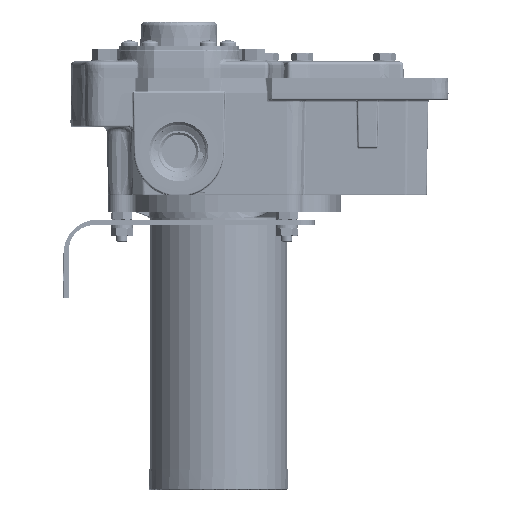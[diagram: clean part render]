
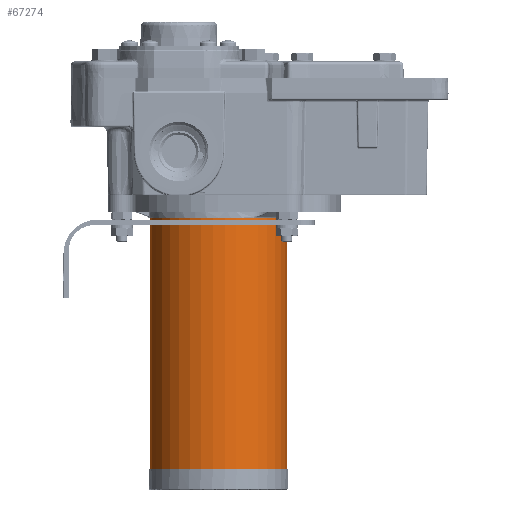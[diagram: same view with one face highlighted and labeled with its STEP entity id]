
A CAD part, front view. The second image highlights one B-rep face of the part: STEP entity #67274.
In plain terms, the highlighted cylindrical face has radius 38.976 mm (diameter 77.953 mm), a partial arc.
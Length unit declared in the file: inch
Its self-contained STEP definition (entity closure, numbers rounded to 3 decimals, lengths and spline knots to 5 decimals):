
#4627=CIRCLE('',#72520,1.5345);
#4628=CIRCLE('',#72521,1.5345);
#4629=CIRCLE('',#72526,1.5345);
#4630=CIRCLE('',#72527,1.5345);
#4631=CIRCLE('',#72528,1.5345);
#4632=CIRCLE('',#72529,1.5345);
#7388=CYLINDRICAL_SURFACE('',#72525,1.5345);
#9432=FACE_OUTER_BOUND('',#13733,.T.);
#13733=EDGE_LOOP('',(#48507,#48508,#48509,#48510,#48511,#48512,#48513,#48514,
#48515,#48516,#48517,#48518));
#17941=LINE('',#133442,#21897);
#17942=LINE('',#133445,#21898);
#17946=LINE('',#133452,#21902);
#17947=LINE('',#133457,#21903);
#17948=LINE('',#133461,#21904);
#17949=LINE('',#133464,#21905);
#21897=VECTOR('',#83555,0.3937);
#21898=VECTOR('',#83558,0.3937);
#21902=VECTOR('',#83564,0.3937);
#21903=VECTOR('',#83569,0.3937);
#21904=VECTOR('',#83572,0.3937);
#21905=VECTOR('',#83575,0.3937);
#28208=VERTEX_POINT('',#133425);
#28210=VERTEX_POINT('',#133428);
#28212=VERTEX_POINT('',#133432);
#28213=VERTEX_POINT('',#133434);
#28215=VERTEX_POINT('',#133440);
#28216=VERTEX_POINT('',#133444);
#28218=VERTEX_POINT('',#133450);
#28219=VERTEX_POINT('',#133454);
#28220=VERTEX_POINT('',#133456);
#28221=VERTEX_POINT('',#133458);
#28222=VERTEX_POINT('',#133460);
#28223=VERTEX_POINT('',#133462);
#35467=EDGE_CURVE('',#28210,#28208,#4627,.T.);
#35470=EDGE_CURVE('',#28213,#28212,#4628,.T.);
#35474=EDGE_CURVE('',#28212,#28215,#17941,.T.);
#35475=EDGE_CURVE('',#28216,#28210,#17942,.T.);
#35479=EDGE_CURVE('',#28208,#28218,#17946,.T.);
#35480=EDGE_CURVE('',#28218,#28219,#4629,.T.);
#35481=EDGE_CURVE('',#28219,#28220,#17947,.T.);
#35482=EDGE_CURVE('',#28220,#28221,#4630,.T.);
#35483=EDGE_CURVE('',#28221,#28222,#17948,.T.);
#35484=EDGE_CURVE('',#28222,#28223,#4631,.T.);
#35485=EDGE_CURVE('',#28223,#28213,#17949,.T.);
#35486=EDGE_CURVE('',#28216,#28215,#4632,.T.);
#48507=ORIENTED_EDGE('',*,*,#35475,.T.);
#48508=ORIENTED_EDGE('',*,*,#35467,.T.);
#48509=ORIENTED_EDGE('',*,*,#35479,.T.);
#48510=ORIENTED_EDGE('',*,*,#35480,.T.);
#48511=ORIENTED_EDGE('',*,*,#35481,.T.);
#48512=ORIENTED_EDGE('',*,*,#35482,.T.);
#48513=ORIENTED_EDGE('',*,*,#35483,.T.);
#48514=ORIENTED_EDGE('',*,*,#35484,.T.);
#48515=ORIENTED_EDGE('',*,*,#35485,.T.);
#48516=ORIENTED_EDGE('',*,*,#35470,.T.);
#48517=ORIENTED_EDGE('',*,*,#35474,.T.);
#48518=ORIENTED_EDGE('',*,*,#35486,.F.);
#67274=ADVANCED_FACE('',(#9432),#7388,.T.);
#72520=AXIS2_PLACEMENT_3D('',#133429,#83544,#83545);
#72521=AXIS2_PLACEMENT_3D('',#133435,#83548,#83549);
#72525=AXIS2_PLACEMENT_3D('',#133453,#83565,#83566);
#72526=AXIS2_PLACEMENT_3D('',#133455,#83567,#83568);
#72527=AXIS2_PLACEMENT_3D('',#133459,#83570,#83571);
#72528=AXIS2_PLACEMENT_3D('',#133463,#83573,#83574);
#72529=AXIS2_PLACEMENT_3D('',#133465,#83576,#83577);
#83544=DIRECTION('center_axis',(0.,0.,
1.));
#83545=DIRECTION('ref_axis',(-0.707,-0.707,0.));
#83548=DIRECTION('center_axis',(0.,0.,
1.));
#83549=DIRECTION('ref_axis',(-0.707,-0.707,0.));
#83555=DIRECTION('',(0.,0.,-1.));
#83558=DIRECTION('',(0.,0.,1.));
#83564=DIRECTION('',(0.,0.,1.));
#83565=DIRECTION('center_axis',(0.,0.,
1.));
#83566=DIRECTION('ref_axis',(-0.707,-0.707,0.));
#83567=DIRECTION('center_axis',(0.,0.,
-1.));
#83568=DIRECTION('ref_axis',(-0.707,-0.707,0.));
#83569=DIRECTION('',(0.,0.,1.));
#83570=DIRECTION('center_axis',(0.,0.,
-1.));
#83571=DIRECTION('ref_axis',(-0.707,-0.707,0.));
#83572=DIRECTION('',(0.,0.,-1.));
#83573=DIRECTION('center_axis',(0.,0.,
-1.));
#83574=DIRECTION('ref_axis',(-0.707,-0.707,0.));
#83575=DIRECTION('',(0.,0.,-1.));
#83576=DIRECTION('center_axis',(0.,0.,
-1.));
#83577=DIRECTION('ref_axis',(-0.707,-0.707,0.));
#133425=CARTESIAN_POINT('',(-1.07922,1.09104,-8.373));
#133428=CARTESIAN_POINT('',(-1.06869,1.10135,-8.373));
#133429=CARTESIAN_POINT('Origin',(0.,0.00018,
-8.373));
#133432=CARTESIAN_POINT('',(-1.10135,1.06869,-8.373));
#133434=CARTESIAN_POINT('',(-1.09104,1.07922,-8.373));
#133435=CARTESIAN_POINT('Origin',(0.,0.00018,
-8.373));
#133440=CARTESIAN_POINT('',(-1.10135,1.06869,-8.753));
#133442=CARTESIAN_POINT('',(-1.10135,1.06869,-8.753));
#133444=CARTESIAN_POINT('',(-1.06869,1.10135,-8.753));
#133445=CARTESIAN_POINT('',(-1.06869,1.10135,-8.753));
#133450=CARTESIAN_POINT('',(-1.07922,1.09104,-3.515));
#133452=CARTESIAN_POINT('',(-1.07922,1.09104,-8.753));
#133453=CARTESIAN_POINT('Origin',(0.,0.00018,
-8.753));
#133454=CARTESIAN_POINT('',(-1.06869,1.10135,-3.515));
#133455=CARTESIAN_POINT('Origin',(0.,0.00018,
-3.515));
#133456=CARTESIAN_POINT('',(-1.06869,1.10135,-3.135));
#133457=CARTESIAN_POINT('',(-1.06869,1.10135,-8.753));
#133458=CARTESIAN_POINT('',(-1.10135,1.06869,-3.135));
#133459=CARTESIAN_POINT('Origin',(0.,0.00018,
-3.135));
#133460=CARTESIAN_POINT('',(-1.10135,1.06869,-3.515));
#133461=CARTESIAN_POINT('',(-1.10135,1.06869,-8.753));
#133462=CARTESIAN_POINT('',(-1.09104,1.07922,-3.515));
#133463=CARTESIAN_POINT('Origin',(0.,0.00018,
-3.515));
#133464=CARTESIAN_POINT('',(-1.09104,1.07922,-8.753));
#133465=CARTESIAN_POINT('Origin',(0.,0.00018,
-8.753));
